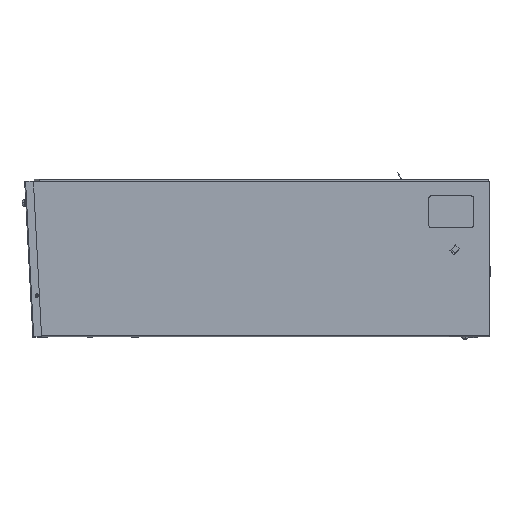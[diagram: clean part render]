
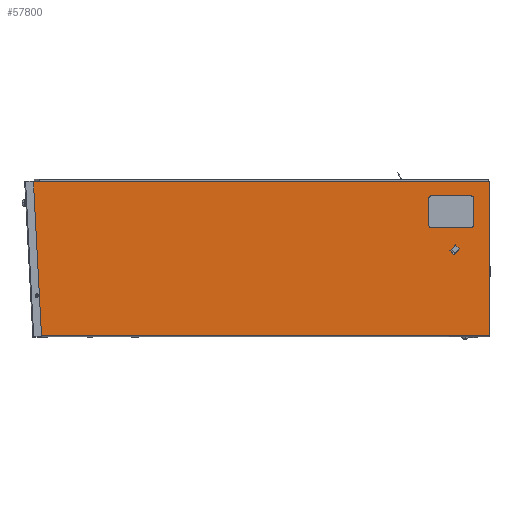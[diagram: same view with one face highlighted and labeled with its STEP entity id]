
A CAD part, left-side view. The second image highlights one B-rep face of the part: STEP entity #57800.
In plain terms, the highlighted planar face has unit normal (-1, 0, 0).
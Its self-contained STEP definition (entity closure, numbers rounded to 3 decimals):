
#2211 = FACE_OUTER_BOUND ( 'NONE', #65332, .T. ) ;
#2648 = CARTESIAN_POINT ( 'NONE',  ( -147.5, 3., 175.5 ) ) ;
#7007 = CARTESIAN_POINT ( 'NONE',  ( -147.5, 69.806, 23.57 ) ) ;
#9923 = CARTESIAN_POINT ( 'NONE',  ( -147.5, 1063.551, 176.5 ) ) ;
#12206 = LINE ( 'NONE', #118623, #163524 ) ;
#16974 = VERTEX_POINT ( 'NONE', #156886 ) ;
#17071 = CARTESIAN_POINT ( 'NONE',  ( -147.5, 1040.373, -84.247 ) ) ;
#20638 = EDGE_CURVE ( 'NONE', #43359, #143439, #164523, .T. ) ;
#20920 = DIRECTION ( 'NONE',  ( 0., 1., 0. ) ) ;
#20944 = CARTESIAN_POINT ( 'NONE',  ( -147.5, 1046.045, -176.636 ) ) ;
#23637 = CARTESIAN_POINT ( 'NONE',  ( -147.5, 83.029, 10.347 ) ) ;
#23734 = LINE ( 'NONE', #129229, #30053 ) ;
#25539 = EDGE_CURVE ( 'NONE', #43359, #76605, #70847, .T. ) ;
#25604 = PLANE ( 'NONE',  #169362 ) ;
#27674 = EDGE_CURVE ( 'NONE', #92296, #82087, #141947, .T. ) ;
#28808 = DIRECTION ( 'NONE',  ( 0., 1., 0. ) ) ;
#30053 = VECTOR ( 'NONE', #63547, 1000. ) ;
#31358 = CARTESIAN_POINT ( 'NONE',  ( -147.5, 523.5, 177.5 ) ) ;
#35295 = ORIENTED_EDGE ( 'NONE', *, *, #71864, .T. ) ;
#35780 = ORIENTED_EDGE ( 'NONE', *, *, #115946, .T. ) ;
#41697 = AXIS2_PLACEMENT_3D ( 'NONE', #17071, #42239, #132162 ) ;
#42239 = DIRECTION ( 'NONE',  ( 1., 0., 0. ) ) ;
#43279 = CARTESIAN_POINT ( 'NONE',  ( -147.5, 3., 177.5 ) ) ;
#43359 = VERTEX_POINT ( 'NONE', #23637 ) ;
#43849 = VECTOR ( 'NONE', #154113, 1000. ) ;
#44799 = CARTESIAN_POINT ( 'NONE',  ( -147.5, 1., -176.636 ) ) ;
#45309 = LINE ( 'NONE', #98077, #102816 ) ;
#45764 = CARTESIAN_POINT ( 'NONE',  ( -147.5, 82.534, 10.842 ) ) ;
#47174 = DIRECTION ( 'NONE',  ( 0., 0., -1. ) ) ;
#47258 = DIRECTION ( 'NONE',  ( 0., -0.707, 0.707 ) ) ;
#48999 = EDGE_CURVE ( 'NONE', #145850, #16974, #123250, .T. ) ;
#53465 = VERTEX_POINT ( 'NONE', #159865 ) ;
#54057 = VECTOR ( 'NONE', #112359, 1000. ) ;
#54755 = DIRECTION ( 'NONE',  ( 0., 0., -1. ) ) ;
#55427 = DIRECTION ( 'NONE',  ( 0., 0., -1. ) ) ;
#56348 = VECTOR ( 'NONE', #28808, 1000. ) ;
#57800 = ADVANCED_FACE ( 'NONE', ( #2211, #107744, #133613 ), #25604, .F. ) ;
#63547 = DIRECTION ( 'NONE',  ( 0., 0.052, 0.999 ) ) ;
#64863 = AXIS2_PLACEMENT_3D ( 'NONE', #2648, #96907, #55427 ) ;
#65332 = EDGE_LOOP ( 'NONE', ( #35780, #35295, #159001, #129686, #77215, #89144 ) ) ;
#70180 = VERTEX_POINT ( 'NONE', #140931 ) ;
#70382 = VERTEX_POINT ( 'NONE', #156440 ) ;
#70847 = LINE ( 'NONE', #45764, #54057 ) ;
#71467 = ORIENTED_EDGE ( 'NONE', *, *, #20638, .T. ) ;
#71864 = EDGE_CURVE ( 'NONE', #70382, #70180, #111807, .T. ) ;
#72757 = AXIS2_PLACEMENT_3D ( 'NONE', #9923, #115465, #47174 ) ;
#74492 = EDGE_CURVE ( 'NONE', #53465, #94017, #75865, .T. ) ;
#75865 = CIRCLE ( 'NONE', #64863, 2. ) ;
#76605 = VERTEX_POINT ( 'NONE', #7007 ) ;
#77215 = ORIENTED_EDGE ( 'NONE', *, *, #110697, .T. ) ;
#79206 = DIRECTION ( 'NONE',  ( 1., 0., 0. ) ) ;
#82087 = VERTEX_POINT ( 'NONE', #20944 ) ;
#83015 = CIRCLE ( 'NONE', #41697, 3.05 ) ;
#89144 = ORIENTED_EDGE ( 'NONE', *, *, #74492, .T. ) ;
#89250 = EDGE_CURVE ( 'NONE', #82087, #70180, #23734, .T. ) ;
#92296 = VERTEX_POINT ( 'NONE', #44799 ) ;
#94017 = VERTEX_POINT ( 'NONE', #43279 ) ;
#94420 = EDGE_CURVE ( 'NONE', #16974, #145850, #83015, .T. ) ;
#94647 = VECTOR ( 'NONE', #47258, 1000. ) ;
#96149 = CARTESIAN_POINT ( 'NONE',  ( -147.5, 92.01, 19.328 ) ) ;
#96907 = DIRECTION ( 'NONE',  ( -1., 0., 0. ) ) ;
#98077 = CARTESIAN_POINT ( 'NONE',  ( -147.5, 1., -177.5 ) ) ;
#98316 = LINE ( 'NONE', #151007, #94647 ) ;
#102816 = VECTOR ( 'NONE', #164650, 1000. ) ;
#105303 = ORIENTED_EDGE ( 'NONE', *, *, #113846, .T. ) ;
#105663 = DIRECTION ( 'NONE',  ( 0., -0.707, -0.707 ) ) ;
#107744 = FACE_BOUND ( 'NONE', #157807, .T. ) ;
#110061 = DIRECTION ( 'NONE',  ( 1., 0., 0. ) ) ;
#110697 = EDGE_CURVE ( 'NONE', #92296, #53465, #45309, .T. ) ;
#111807 = CIRCLE ( 'NONE', #72757, 1. ) ;
#112359 = DIRECTION ( 'NONE',  ( 0., -0.707, 0.707 ) ) ;
#113610 = EDGE_CURVE ( 'NONE', #154798, #76605, #12206, .T. ) ;
#113846 = EDGE_CURVE ( 'NONE', #143439, #154798, #98316, .T. ) ;
#115465 = DIRECTION ( 'NONE',  ( -1., 0., 0. ) ) ;
#115686 = ORIENTED_EDGE ( 'NONE', *, *, #94420, .T. ) ;
#115946 = EDGE_CURVE ( 'NONE', #94017, #70382, #135962, .T. ) ;
#118030 = VECTOR ( 'NONE', #20920, 1000. ) ;
#118623 = CARTESIAN_POINT ( 'NONE',  ( -147.5, 74.297, 28.06 ) ) ;
#121015 = ORIENTED_EDGE ( 'NONE', *, *, #113610, .T. ) ;
#121803 = CARTESIAN_POINT ( 'NONE',  ( -147.5, 1040.373, -81.197 ) ) ;
#123250 = CIRCLE ( 'NONE', #131493, 3.05 ) ;
#129229 = CARTESIAN_POINT ( 'NONE',  ( -147.5, 1044.569, -204.808 ) ) ;
#129686 = ORIENTED_EDGE ( 'NONE', *, *, #27674, .F. ) ;
#131493 = AXIS2_PLACEMENT_3D ( 'NONE', #135101, #110061, #54755 ) ;
#132162 = DIRECTION ( 'NONE',  ( 0., 0., -1. ) ) ;
#133613 = FACE_BOUND ( 'NONE', #161006, .T. ) ;
#135101 = CARTESIAN_POINT ( 'NONE',  ( -147.5, 1040.373, -84.247 ) ) ;
#135962 = LINE ( 'NONE', #31358, #56348 ) ;
#136880 = CARTESIAN_POINT ( 'NONE',  ( -147.5, 78.787, 32.551 ) ) ;
#140253 = CARTESIAN_POINT ( 'NONE',  ( -147.5, 1046.045, -176.636 ) ) ;
#140931 = CARTESIAN_POINT ( 'NONE',  ( -147.5, 1064.55, 176.448 ) ) ;
#141947 = LINE ( 'NONE', #140253, #118030 ) ;
#142679 = ORIENTED_EDGE ( 'NONE', *, *, #25539, .F. ) ;
#143439 = VERTEX_POINT ( 'NONE', #96149 ) ;
#145850 = VERTEX_POINT ( 'NONE', #121803 ) ;
#151007 = CARTESIAN_POINT ( 'NONE',  ( -147.5, 91.515, 19.823 ) ) ;
#151873 = ORIENTED_EDGE ( 'NONE', *, *, #48999, .T. ) ;
#154113 = DIRECTION ( 'NONE',  ( 0., 0.707, 0.707 ) ) ;
#154798 = VERTEX_POINT ( 'NONE', #136880 ) ;
#154974 = CARTESIAN_POINT ( 'NONE',  ( -147.5, 87.52, 14.837 ) ) ;
#156440 = CARTESIAN_POINT ( 'NONE',  ( -147.5, 1063.551, 177.5 ) ) ;
#156886 = CARTESIAN_POINT ( 'NONE',  ( -147.5, 1040.373, -87.297 ) ) ;
#157807 = EDGE_LOOP ( 'NONE', ( #105303, #121015, #142679, #71467 ) ) ;
#158739 = DIRECTION ( 'NONE',  ( 0., 0., -1. ) ) ;
#159001 = ORIENTED_EDGE ( 'NONE', *, *, #89250, .F. ) ;
#159612 = CARTESIAN_POINT ( 'NONE',  ( -147.5, 523.5, -177.5 ) ) ;
#159865 = CARTESIAN_POINT ( 'NONE',  ( -147.5, 1., 175.5 ) ) ;
#161006 = EDGE_LOOP ( 'NONE', ( #115686, #151873 ) ) ;
#163524 = VECTOR ( 'NONE', #105663, 1000. ) ;
#164523 = LINE ( 'NONE', #154974, #43849 ) ;
#164650 = DIRECTION ( 'NONE',  ( 0., 0., 1. ) ) ;
#169362 = AXIS2_PLACEMENT_3D ( 'NONE', #159612, #79206, #158739 ) ;
